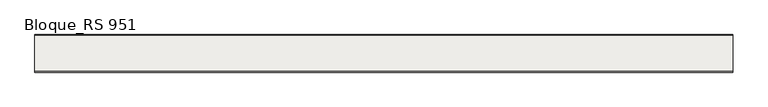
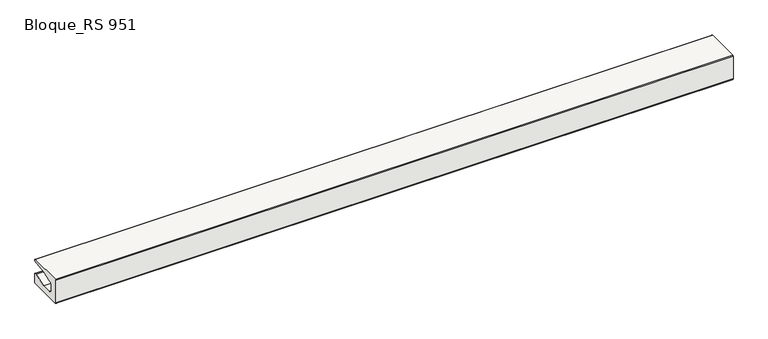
"""IFC4 building model written with IfcOpenShell, lengths in millimetres: slab geometry, ROSA GRES_RS 951 : Bloque_RS 951."""

from ifc_helpers import new_model, si_unit, point, frame, frame_2d, origin, place, context, project, spatial, polyline, circle_curve, trimmed, segment, composite_curve, outline, extrude, source, transform, mapped, element, save


def bloque_rs_951_bf02a5ba(model_context):
    return source(origin(), model_context, "Body", "SweptSolid", [
        extrude(outline(composite_curve([segment(polyline([(-20.0, 10.0), (-307.2035155, 10.0)]), True, "CONTINUOUS"), segment(trimmed(circle_curve(frame_2d((-307.2035155, 20.0)), 10.0), [point((-307.2035155, 10.0))], [point((-317.2035155, 20.0))], False, "CARTESIAN"), True, "CONTINUOUS"), segment(polyline([(-317.2035155, 20.0), (-317.2035155, 213.2873902)]), True, "CONTINUOUS"), segment(trimmed(circle_curve(frame_2d((-312.2133333, 213.297208)), 4.9901918), [point((-317.2035155, 213.2873902))], [point((-311.9003845, 218.2775772))], False, "CARTESIAN"), True, "CONTINUOUS"), segment(polyline([(-311.9003845, 218.2775772), (-27.9999903, 218.2775772)]), True, "CONTINUOUS"), segment(trimmed(circle_curve(frame_2d((-27.9999903, 210.2775772)), 8.0), [point((-27.9999903, 218.2775772))], [point((-19.9999903, 210.2775772))], False, "CARTESIAN"), True, "CONTINUOUS"), segment(polyline([(-19.9999903, 210.2775772), (-19.9999903, 200.0838698), (-141.4794893, 178.287395), (-231.9063097, 153.0272691)]), True, "CONTINUOUS"), segment(trimmed(circle_curve(frame_2d((-225.2461128, 129.1849323)), 24.7551055), [point((-231.9063097, 153.0272691))], [point((-250.0, 128.9393377))], True, "CARTESIAN"), True, "CONTINUOUS"), segment(polyline([(-250.0, 128.9393377), (-250.0, 85.0838698)]), True, "CONTINUOUS"), segment(trimmed(circle_curve(frame_2d((-225.2461128, 84.8382752)), 24.7551055), [point((-250.0, 85.0838698))], [point((-225.0599333, 60.0838698))], True, "CARTESIAN"), True, "CONTINUOUS"), segment(polyline([(-225.0599333, 60.0838698), (-141.2759641, 60.0838698), (-38.2035251, 95.0094288), (-25.0, 95.0094288)]), True, "CONTINUOUS"), segment(trimmed(circle_curve(frame_2d((-25.0, 90.0094288)), 5.0), [point((-25.0, 95.0094288))], [point((-20.0, 90.0094288))], False, "CARTESIAN"), True, "CONTINUOUS"), segment(polyline([(-20.0, 90.0094288), (-20.0, 10.0)]), True, "CONTINUOUS")], self_intersect=False)), frame((0.0, 0.0, 0.0), z_axis=(1.0, 0.0, 0.0), x_axis=(0.0, 1.0, 0.0)), (0.0, 0.0, 1.0), 5510.5),
    ])


if __name__ == "__main__":
    model = new_model("IFC4")
    model_context = context("Model", 3, world=origin())
    ifc_project = project(units=[si_unit("LENGTHUNIT", "METRE", prefix="MILLI")], contexts=[model_context])
    site = spatial("IfcSite", under=ifc_project)
    building = spatial("IfcBuilding", under=site)
    placement = place(None, origin())
    bloque_rs_951_shape = bloque_rs_951_bf02a5ba(model_context)
    element("IfcSlab", 1, ObjectType="ROSA GRES_RS 951 : Bloque_RS 951", at=placement, inside=building, context=model_context, shape_type="MappedRepresentation", body=[
        mapped(bloque_rs_951_shape, transform((0.0, 0.0, 0.0), x_axis=(1.0, 0.0, 0.0), y_axis=(0.0, 1.0, 0.0), z_axis=(0.0, 0.0, 1.0))),
    ])
    save(model, "model.ifc")
